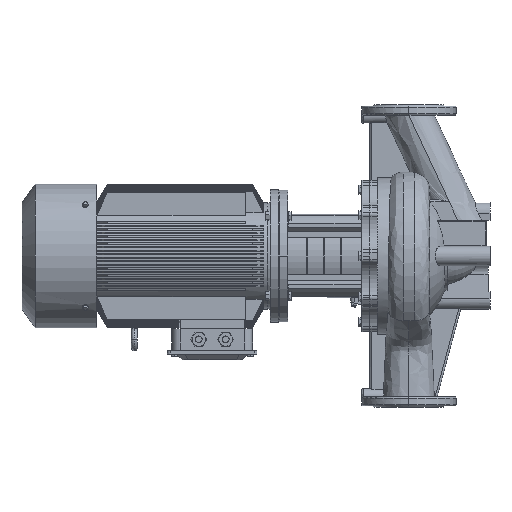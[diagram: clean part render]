
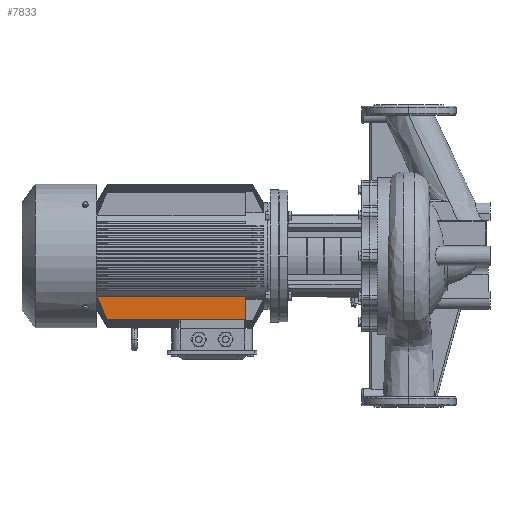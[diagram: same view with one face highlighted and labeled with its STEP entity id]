
A CAD part, left-side view. The second image highlights one B-rep face of the part: STEP entity #7833.
In plain terms, the highlighted planar face has unit normal (-1, 0, 0).
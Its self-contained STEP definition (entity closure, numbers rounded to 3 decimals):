
#324 = CARTESIAN_POINT ( 'NONE',  ( -90.376, 812.607, -137.645 ) ) ;
#2941 = EDGE_CURVE ( 'NONE', #57961, #7484, #16232, .T. ) ;
#3534 = FACE_OUTER_BOUND ( 'NONE', #55814, .T. ) ;
#4265 = EDGE_CURVE ( 'NONE', #36821, #7484, #67944, .T. ) ;
#4615 = DIRECTION ( 'NONE',  ( 1., 0., 0. ) ) ;
#5361 = CARTESIAN_POINT ( 'NONE',  ( -90.376, 818.275, -125.735 ) ) ;
#5857 = ORIENTED_EDGE ( 'NONE', *, *, #17642, .F. ) ;
#6730 = CARTESIAN_POINT ( 'NONE',  ( -90.376, 826.5, -107.706 ) ) ;
#7484 = VERTEX_POINT ( 'NONE', #60046 ) ;
#7833 = ADVANCED_FACE ( 'NONE', ( #3534 ), #37196, .F. ) ;
#10045 = CARTESIAN_POINT ( 'NONE',  ( -90.376, 800.639, -161.892 ) ) ;
#10416 = CARTESIAN_POINT ( 'NONE',  ( -90.376, 797.979, -167.129 ) ) ;
#10769 = CARTESIAN_POINT ( 'NONE',  ( -90.376, 815.07, -132.52 ) ) ;
#11473 = CARTESIAN_POINT ( 'NONE',  ( -90.376, 819.195, -123.768 ) ) ;
#11869 = DIRECTION ( 'NONE',  ( 0., -1., 0. ) ) ;
#11969 = B_SPLINE_CURVE_WITH_KNOTS ( 'NONE', 3,
 ( #10416, #10045, #54569, #44438, #16205, #49149, #22008, #53845, #60370, #70867, #32870, #15834, #71219, #324, #43722, #38322, #65779, #10769, #54920, #21286, #5361, #61077, #11473, #43020, #27433, #32153, #44093, #66147, #16565, #65066, #66500, #15475 ),
 .UNSPECIFIED., .F., .F.,
 ( 4, 2, 2, 1, 1, 1, 1, 1, 1, 1, 2, 2, 2, 2, 1, 1, 1, 1, 1, 2, 2, 4 ),
 ( 0., 0.25, 0.375, 0.437, 0.469, 0.484, 0.492, 0.496, 0.498, 0.499, 0.5, 0.5, 0.625, 0.688, 0.719, 0.734, 0.742, 0.746, 0.748, 0.749, 0.75, 1. ),
 .UNSPECIFIED. ) ;
#14306 = ORIENTED_EDGE ( 'NONE', *, *, #2941, .F. ) ;
#14362 = EDGE_CURVE ( 'NONE', #45921, #57961, #51298, .T. ) ;
#15475 = CARTESIAN_POINT ( 'NONE',  ( -90.376, 826.5, -107.706 ) ) ;
#15834 = CARTESIAN_POINT ( 'NONE',  ( -90.376, 812.564, -137.735 ) ) ;
#16129 = ORIENTED_EDGE ( 'NONE', *, *, #14362, .F. ) ;
#16205 = CARTESIAN_POINT ( 'NONE',  ( -90.377, 808.044, -147.014 ) ) ;
#16232 = LINE ( 'NONE', #49172, #71210 ) ;
#16565 = CARTESIAN_POINT ( 'NONE',  ( -90.376, 819.676, -122.736 ) ) ;
#17642 = EDGE_CURVE ( 'NONE', #36821, #45921, #11969, .T. ) ;
#18393 = CARTESIAN_POINT ( 'NONE',  ( -90.376, 826.5, -107.706 ) ) ;
#21286 = CARTESIAN_POINT ( 'NONE',  ( -90.376, 817.416, -127.566 ) ) ;
#21841 = VECTOR ( 'NONE', #11869, 1000. ) ;
#22008 = CARTESIAN_POINT ( 'NONE',  ( -90.376, 810.656, -141.672 ) ) ;
#23875 = VECTOR ( 'NONE', #62151, 1000. ) ;
#25601 = DIRECTION ( 'NONE',  ( 0., 0., -1. ) ) ;
#25678 = CARTESIAN_POINT ( 'NONE',  ( -90.376, 432.6, -107.706 ) ) ;
#25949 = CARTESIAN_POINT ( 'NONE',  ( -90.376, 826.5, -167.129 ) ) ;
#26286 = ORIENTED_EDGE ( 'NONE', *, *, #4265, .T. ) ;
#27433 = CARTESIAN_POINT ( 'NONE',  ( -90.376, 819.563, -122.978 ) ) ;
#32153 = CARTESIAN_POINT ( 'NONE',  ( -90.376, 819.624, -122.847 ) ) ;
#32870 = CARTESIAN_POINT ( 'NONE',  ( -90.376, 812.503, -137.861 ) ) ;
#35752 = CARTESIAN_POINT ( 'NONE',  ( -90.376, 826.5, -167.129 ) ) ;
#36821 = VERTEX_POINT ( 'NONE', #52299 ) ;
#37196 = PLANE ( 'NONE',  #64970 ) ;
#38322 = CARTESIAN_POINT ( 'NONE',  ( -90.376, 812.62, -137.619 ) ) ;
#43020 = CARTESIAN_POINT ( 'NONE',  ( -90.376, 819.441, -123.241 ) ) ;
#43722 = CARTESIAN_POINT ( 'NONE',  ( -90.376, 812.616, -137.627 ) ) ;
#44093 = CARTESIAN_POINT ( 'NONE',  ( -90.376, 819.65, -122.791 ) ) ;
#44438 = CARTESIAN_POINT ( 'NONE',  ( -90.377, 806.851, -149.434 ) ) ;
#45921 = VERTEX_POINT ( 'NONE', #6730 ) ;
#49149 = CARTESIAN_POINT ( 'NONE',  ( -90.376, 809.792, -143.443 ) ) ;
#49172 = CARTESIAN_POINT ( 'NONE',  ( -90.376, 432.6, -167.129 ) ) ;
#51298 = LINE ( 'NONE', #18393, #21841 ) ;
#52299 = CARTESIAN_POINT ( 'NONE',  ( -90.376, 797.979, -167.129 ) ) ;
#53845 = CARTESIAN_POINT ( 'NONE',  ( -90.376, 811.646, -139.632 ) ) ;
#54569 = CARTESIAN_POINT ( 'NONE',  ( -90.377, 803.189, -156.814 ) ) ;
#54920 = CARTESIAN_POINT ( 'NONE',  ( -90.376, 816.835, -128.796 ) ) ;
#55814 = EDGE_LOOP ( 'NONE', ( #14306, #16129, #5857, #26286 ) ) ;
#57961 = VERTEX_POINT ( 'NONE', #25678 ) ;
#60046 = CARTESIAN_POINT ( 'NONE',  ( -90.376, 432.6, -167.129 ) ) ;
#60370 = CARTESIAN_POINT ( 'NONE',  ( -90.376, 812.137, -138.618 ) ) ;
#61077 = CARTESIAN_POINT ( 'NONE',  ( -90.376, 818.702, -124.824 ) ) ;
#62151 = DIRECTION ( 'NONE',  ( 0., -1., 0. ) ) ;
#64970 = AXIS2_PLACEMENT_3D ( 'NONE', #25949, #4615, #25601 ) ;
#65066 = CARTESIAN_POINT ( 'NONE',  ( -90.376, 822.09, -117.542 ) ) ;
#65779 = CARTESIAN_POINT ( 'NONE',  ( -90.376, 813.863, -135.043 ) ) ;
#66147 = CARTESIAN_POINT ( 'NONE',  ( -90.376, 819.668, -122.753 ) ) ;
#66500 = CARTESIAN_POINT ( 'NONE',  ( -90.376, 824.362, -112.54 ) ) ;
#67944 = LINE ( 'NONE', #35752, #23875 ) ;
#70867 = CARTESIAN_POINT ( 'NONE',  ( -90.376, 812.381, -138.113 ) ) ;
#70892 = DIRECTION ( 'NONE',  ( 0., 0., -1. ) ) ;
#71210 = VECTOR ( 'NONE', #70892, 1000. ) ;
#71219 = CARTESIAN_POINT ( 'NONE',  ( -90.376, 812.594, -137.672 ) ) ;
